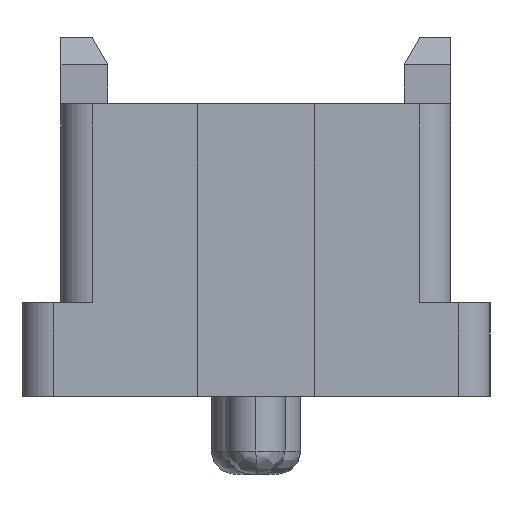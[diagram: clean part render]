
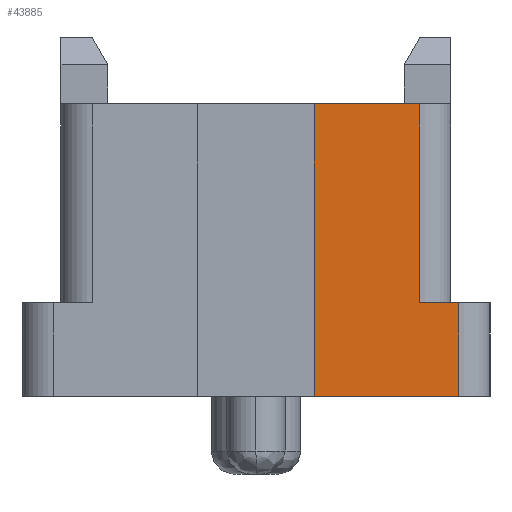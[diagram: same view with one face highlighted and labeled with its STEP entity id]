
A CAD part, left-side view. The second image highlights one B-rep face of the part: STEP entity #43885.
In plain terms, the highlighted planar face has unit normal (-1, 0, 0).
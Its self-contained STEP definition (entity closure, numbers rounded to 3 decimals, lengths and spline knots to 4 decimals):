
#578 = CARTESIAN_POINT ( 'NONE',  ( 12., -0.1, -3.4 ) ) ;
#6156 = LINE ( 'NONE', #131178, #53131 ) ;
#6472 = VERTEX_POINT ( 'NONE', #36720 ) ;
#8085 = FACE_OUTER_BOUND ( 'NONE', #96217, .T. ) ;
#11731 = EDGE_CURVE ( 'NONE', #6472, #43242, #84992, .T. ) ;
#11776 = DIRECTION ( 'NONE',  ( 0., 1., 0. ) ) ;
#13637 = ORIENTED_EDGE ( 'NONE', *, *, #140561, .T. ) ;
#16697 = EDGE_CURVE ( 'NONE', #43242, #38397, #114474, .T. ) ;
#19974 = DIRECTION ( 'NONE',  ( 1., 0., 0. ) ) ;
#25125 = DIRECTION ( 'NONE',  ( 0., 0., -1. ) ) ;
#29830 = AXIS2_PLACEMENT_3D ( 'NONE', #99589, #19974, #145033 ) ;
#36600 = LINE ( 'NONE', #71544, #106944 ) ;
#36720 = CARTESIAN_POINT ( 'NONE',  ( 12., -0.1, -3.4 ) ) ;
#37331 = DIRECTION ( 'NONE',  ( 0., 0., 1. ) ) ;
#38397 = VERTEX_POINT ( 'NONE', #43225 ) ;
#43225 = CARTESIAN_POINT ( 'NONE',  ( 12., 1.75, -4.6 ) ) ;
#43242 = VERTEX_POINT ( 'NONE', #92437 ) ;
#43885 = ADVANCED_FACE ( 'NONE', ( #8085 ), #130898, .F. ) ;
#45201 = DIRECTION ( 'NONE',  ( 0., 1., 0. ) ) ;
#53131 = VECTOR ( 'NONE', #96920, 1000. ) ;
#58219 = CARTESIAN_POINT ( 'NONE',  ( 12., 0.4, -0.85 ) ) ;
#63898 = ORIENTED_EDGE ( 'NONE', *, *, #79230, .T. ) ;
#64137 = CARTESIAN_POINT ( 'NONE',  ( 12., -0.1, -3.4 ) ) ;
#71544 = CARTESIAN_POINT ( 'NONE',  ( 12., 0.4, -3.4 ) ) ;
#74714 = ORIENTED_EDGE ( 'NONE', *, *, #16697, .F. ) ;
#79230 = EDGE_CURVE ( 'NONE', #112117, #120231, #36600, .T. ) ;
#80976 = CARTESIAN_POINT ( 'NONE',  ( 12., -0.1, -4.6 ) ) ;
#83471 = ORIENTED_EDGE ( 'NONE', *, *, #102966, .T. ) ;
#84992 = LINE ( 'NONE', #64137, #112934 ) ;
#91341 = LINE ( 'NONE', #578, #134642 ) ;
#91689 = ORIENTED_EDGE ( 'NONE', *, *, #11731, .F. ) ;
#92437 = CARTESIAN_POINT ( 'NONE',  ( 12., -0.1, -4.6 ) ) ;
#93671 = VECTOR ( 'NONE', #11776, 1000. ) ;
#96217 = EDGE_LOOP ( 'NONE', ( #74714, #91689, #13637, #63898, #83471, #109014 ) ) ;
#96920 = DIRECTION ( 'NONE',  ( 0., 1., 0. ) ) ;
#98536 = VECTOR ( 'NONE', #25125, 1000. ) ;
#99589 = CARTESIAN_POINT ( 'NONE',  ( 12., 0.825, -2.725 ) ) ;
#102941 = VERTEX_POINT ( 'NONE', #106634 ) ;
#102966 = EDGE_CURVE ( 'NONE', #120231, #102941, #6156, .T. ) ;
#104022 = CARTESIAN_POINT ( 'NONE',  ( 12., 1.75, -0.85 ) ) ;
#106634 = CARTESIAN_POINT ( 'NONE',  ( 12., 1.75, -0.85 ) ) ;
#106944 = VECTOR ( 'NONE', #37331, 1000. ) ;
#109014 = ORIENTED_EDGE ( 'NONE', *, *, #117553, .T. ) ;
#109545 = DIRECTION ( 'NONE',  ( 0., 0., -1. ) ) ;
#112117 = VERTEX_POINT ( 'NONE', #147222 ) ;
#112934 = VECTOR ( 'NONE', #109545, 1000. ) ;
#114474 = LINE ( 'NONE', #80976, #93671 ) ;
#117553 = EDGE_CURVE ( 'NONE', #102941, #38397, #126353, .T. ) ;
#120231 = VERTEX_POINT ( 'NONE', #58219 ) ;
#126353 = LINE ( 'NONE', #104022, #98536 ) ;
#130898 = PLANE ( 'NONE',  #29830 ) ;
#131178 = CARTESIAN_POINT ( 'NONE',  ( 12., 0.4, -0.85 ) ) ;
#134642 = VECTOR ( 'NONE', #45201, 1000. ) ;
#140561 = EDGE_CURVE ( 'NONE', #6472, #112117, #91341, .T. ) ;
#145033 = DIRECTION ( 'NONE',  ( 0., 1., 0. ) ) ;
#147222 = CARTESIAN_POINT ( 'NONE',  ( 12., 0.4, -3.4 ) ) ;
